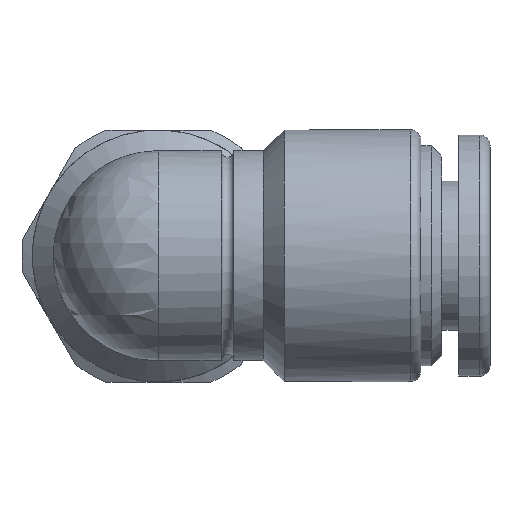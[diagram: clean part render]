
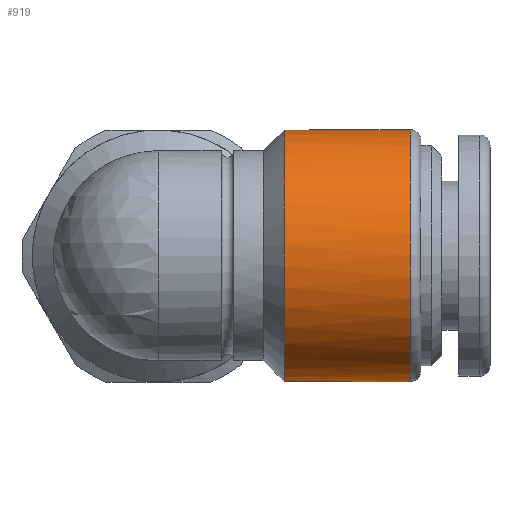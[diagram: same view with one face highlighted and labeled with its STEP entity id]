
A CAD part, top view. The second image highlights one B-rep face of the part: STEP entity #919.
In plain terms, the highlighted cylindrical face has radius 6 mm (diameter 12 mm), a full revolution.
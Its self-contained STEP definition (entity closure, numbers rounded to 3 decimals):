
#48=LINE($,#1682,#76);
#53=LINE($,#1702,#81);
#76=VECTOR($,#1295,2.);
#81=VECTOR($,#1306,2.);
#151=CYLINDRICAL_SURFACE($,#1046,6.);
#176=FACE_BOUND($,#316,.T.);
#233=FACE_OUTER_BOUND($,#315,.T.);
#315=EDGE_LOOP($,(#820));
#316=EDGE_LOOP($,(#821,#822,#823,#824,#825));
#379=CIRCLE($,#1043,6.);
#380=CIRCLE($,#1045,6.);
#381=CIRCLE($,#1047,6.);
#382=CIRCLE($,#1048,6.);
#461=VERTEX_POINT($,#1679);
#462=VERTEX_POINT($,#1681);
#465=VERTEX_POINT($,#1691);
#467=VERTEX_POINT($,#1697);
#468=VERTEX_POINT($,#1701);
#469=VERTEX_POINT($,#1712);
#577=EDGE_CURVE($,#462,#461,#48,.T.);
#585=EDGE_CURVE($,#468,#467,#53,.T.);
#589=EDGE_CURVE($,#465,#468,#379,.T.);
#590=EDGE_CURVE($,#461,#465,#380,.T.);
#591=EDGE_CURVE($,#469,#469,#381,.T.);
#592=EDGE_CURVE($,#462,#467,#382,.T.);
#820=ORIENTED_EDGE($,*,*,#591,.F.);
#821=ORIENTED_EDGE($,*,*,#577,.T.);
#822=ORIENTED_EDGE($,*,*,#590,.T.);
#823=ORIENTED_EDGE($,*,*,#589,.T.);
#824=ORIENTED_EDGE($,*,*,#585,.T.);
#825=ORIENTED_EDGE($,*,*,#592,.F.);
#919=ADVANCED_FACE($,(#233,#176),#151,.T.);
#1043=AXIS2_PLACEMENT_3D($,#1708,#1316,#1317);
#1045=AXIS2_PLACEMENT_3D($,#1710,#1320,#1321);
#1046=AXIS2_PLACEMENT_3D($,#1711,#1322,#1323);
#1047=AXIS2_PLACEMENT_3D($,#1713,#1324,#1325);
#1048=AXIS2_PLACEMENT_3D($,#1714,#1326,#1327);
#1295=DIRECTION($,(1.,0.,0.));
#1306=DIRECTION($,(-1.,0.,0.));
#1316=DIRECTION('center_axis',(1.,0.,0.));
#1317=DIRECTION('ref_axis',(0.,0.,1.));
#1320=DIRECTION('center_axis',(1.,0.,0.));
#1321=DIRECTION('ref_axis',(0.,0.,1.));
#1322=DIRECTION('center_axis',(1.,0.,0.));
#1323=DIRECTION('ref_axis',(0.,0.,1.));
#1324=DIRECTION('center_axis',(1.,0.,0.));
#1325=DIRECTION('ref_axis',(0.,0.,1.));
#1326=DIRECTION('center_axis',(-1.,0.,0.));
#1327=DIRECTION('ref_axis',(0.,0.,1.));
#1679=CARTESIAN_POINT('',(8.,-0.75,-5.953));
#1681=CARTESIAN_POINT('',(6.,-0.75,-5.953));
#1682=CARTESIAN_POINT($,(5.,-0.75,-5.953));
#1691=CARTESIAN_POINT('',(8.,0.,-6.));
#1697=CARTESIAN_POINT('',(6.,0.75,-5.953));
#1701=CARTESIAN_POINT('',(8.,0.75,-5.953));
#1702=CARTESIAN_POINT($,(5.,0.75,-5.953));
#1708=CARTESIAN_POINT('Origin',(8.,0.,0.));
#1710=CARTESIAN_POINT('Origin',(8.,0.,0.));
#1711=CARTESIAN_POINT('Origin',(5.,0.,0.));
#1712=CARTESIAN_POINT('',(12.,0.,-6.));
#1713=CARTESIAN_POINT('Origin',(12.,0.,0.));
#1714=CARTESIAN_POINT('Origin',(6.,0.,0.));
